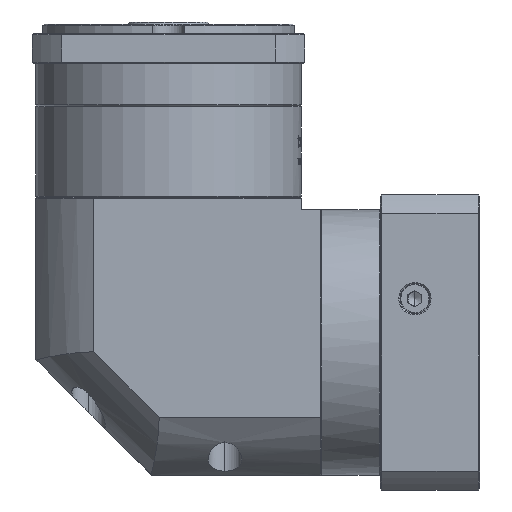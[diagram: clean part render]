
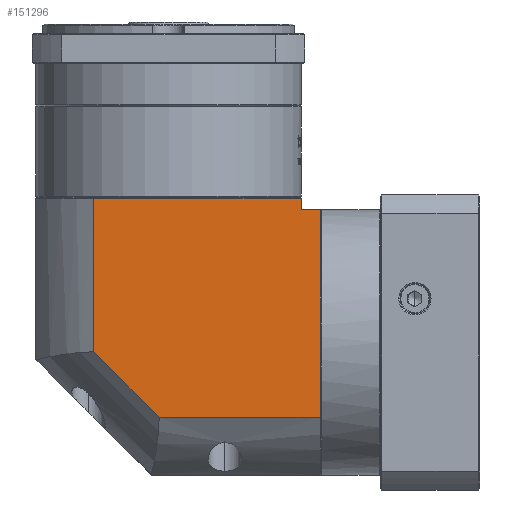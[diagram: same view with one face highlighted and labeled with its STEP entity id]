
A CAD part, left-side view. The second image highlights one B-rep face of the part: STEP entity #151296.
In plain terms, the highlighted planar face has unit normal (-1, 0, 0).
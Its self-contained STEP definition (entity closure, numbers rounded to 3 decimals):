
#384 = EDGE_CURVE ( 'NONE', #126778, #143815, #110345, .T. ) ;
#3710 = LINE ( 'NONE', #74416, #164114 ) ;
#5390 = CARTESIAN_POINT ( 'NONE',  ( -280.862, -100.837, 76.858 ) ) ;
#6974 = DIRECTION ( 'NONE',  ( 0., 1., 0. ) ) ;
#9279 = VECTOR ( 'NONE', #146092, 1000. ) ;
#11025 = DIRECTION ( 'NONE',  ( 0., 1., 0. ) ) ;
#18036 = CARTESIAN_POINT ( 'NONE',  ( -280.862, -92.437, 65.358 ) ) ;
#18398 = CARTESIAN_POINT ( 'NONE',  ( -280.862, -30.876, -24.542 ) ) ;
#18513 = PLANE ( 'NONE',  #148459 ) ;
#21150 = DIRECTION ( 'NONE',  ( 0., 0.707, 0.707 ) ) ;
#22109 = EDGE_CURVE ( 'NONE', #146492, #126778, #99120, .T. ) ;
#24968 = VECTOR ( 'NONE', #91882, 1000. ) ;
#28547 = VERTEX_POINT ( 'NONE', #49166 ) ;
#32340 = CARTESIAN_POINT ( 'NONE',  ( -280.862, -2.538, 70.358 ) ) ;
#32728 = CARTESIAN_POINT ( 'NONE',  ( -280.862, -92.437, -49.642 ) ) ;
#37093 = CARTESIAN_POINT ( 'NONE',  ( -280.862, -92.437, 65.358 ) ) ;
#44169 = ORIENTED_EDGE ( 'NONE', *, *, #44295, .T. ) ;
#44295 = EDGE_CURVE ( 'NONE', #152295, #155359, #48166, .T. ) ;
#48166 = LINE ( 'NONE', #37093, #149085 ) ;
#49166 = CARTESIAN_POINT ( 'NONE',  ( -280.862, -92.437, 70.358 ) ) ;
#50022 = DIRECTION ( 'NONE',  ( 0., -1., 0. ) ) ;
#55906 = ORIENTED_EDGE ( 'NONE', *, *, #135306, .F. ) ;
#57239 = ORIENTED_EDGE ( 'NONE', *, *, #384, .F. ) ;
#62978 = CARTESIAN_POINT ( 'NONE',  ( -280.862, -100.837, -24.542 ) ) ;
#64095 = CARTESIAN_POINT ( 'NONE',  ( -280.862, -30.876, -24.542 ) ) ;
#66337 = LINE ( 'NONE', #32728, #74233 ) ;
#72203 = DIRECTION ( 'NONE',  ( 0., 0., 1. ) ) ;
#74233 = VECTOR ( 'NONE', #72203, 1000. ) ;
#74416 = CARTESIAN_POINT ( 'NONE',  ( -280.862, 22.563, 70.358 ) ) ;
#76786 = VERTEX_POINT ( 'NONE', #62978 ) ;
#82911 = DIRECTION ( 'NONE',  ( 1., 0., 0. ) ) ;
#83026 = CARTESIAN_POINT ( 'NONE',  ( -280.862, -2.538, 3.796 ) ) ;
#91882 = DIRECTION ( 'NONE',  ( 0., 1., 0. ) ) ;
#97985 = CARTESIAN_POINT ( 'NONE',  ( -280.862, -2.538, 76.858 ) ) ;
#99120 = LINE ( 'NONE', #18398, #118975 ) ;
#100563 = LINE ( 'NONE', #5390, #163881 ) ;
#102303 = LINE ( 'NONE', #154924, #24968 ) ;
#106214 = FACE_OUTER_BOUND ( 'NONE', #109886, .T. ) ;
#109886 = EDGE_LOOP ( 'NONE', ( #57239, #158191, #55906, #157144, #44169, #116138, #127411 ) ) ;
#110345 = LINE ( 'NONE', #97985, #9279 ) ;
#111837 = EDGE_CURVE ( 'NONE', #143815, #28547, #3710, .T. ) ;
#116138 = ORIENTED_EDGE ( 'NONE', *, *, #141220, .T. ) ;
#117225 = DIRECTION ( 'NONE',  ( 0., 0., -1. ) ) ;
#118975 = VECTOR ( 'NONE', #21150, 1000. ) ;
#125645 = CARTESIAN_POINT ( 'NONE',  ( -280.862, -100.837, 65.358 ) ) ;
#126778 = VERTEX_POINT ( 'NONE', #83026 ) ;
#127411 = ORIENTED_EDGE ( 'NONE', *, *, #111837, .F. ) ;
#131496 = CARTESIAN_POINT ( 'NONE',  ( -280.862, 22.563, 76.858 ) ) ;
#135306 = EDGE_CURVE ( 'NONE', #76786, #146492, #102303, .T. ) ;
#141220 = EDGE_CURVE ( 'NONE', #155359, #28547, #66337, .T. ) ;
#143815 = VERTEX_POINT ( 'NONE', #32340 ) ;
#146092 = DIRECTION ( 'NONE',  ( 0., 0., 1. ) ) ;
#146492 = VERTEX_POINT ( 'NONE', #64095 ) ;
#148459 = AXIS2_PLACEMENT_3D ( 'NONE', #131496, #82911, #6974 ) ;
#149085 = VECTOR ( 'NONE', #11025, 1000. ) ;
#149950 = EDGE_CURVE ( 'NONE', #152295, #76786, #100563, .T. ) ;
#151296 = ADVANCED_FACE ( 'NONE', ( #106214 ), #18513, .F. ) ;
#152295 = VERTEX_POINT ( 'NONE', #125645 ) ;
#154924 = CARTESIAN_POINT ( 'NONE',  ( -280.862, 22.563, -24.542 ) ) ;
#155359 = VERTEX_POINT ( 'NONE', #18036 ) ;
#157144 = ORIENTED_EDGE ( 'NONE', *, *, #149950, .F. ) ;
#158191 = ORIENTED_EDGE ( 'NONE', *, *, #22109, .F. ) ;
#163881 = VECTOR ( 'NONE', #117225, 1000. ) ;
#164114 = VECTOR ( 'NONE', #50022, 1000. ) ;
